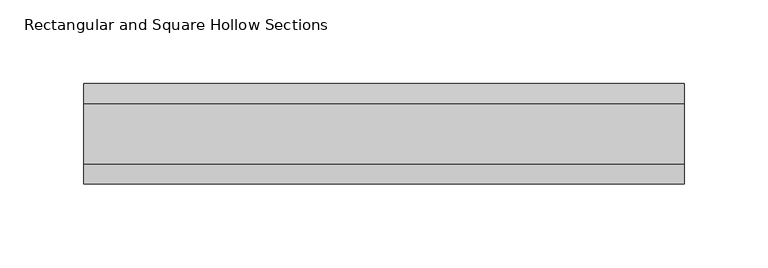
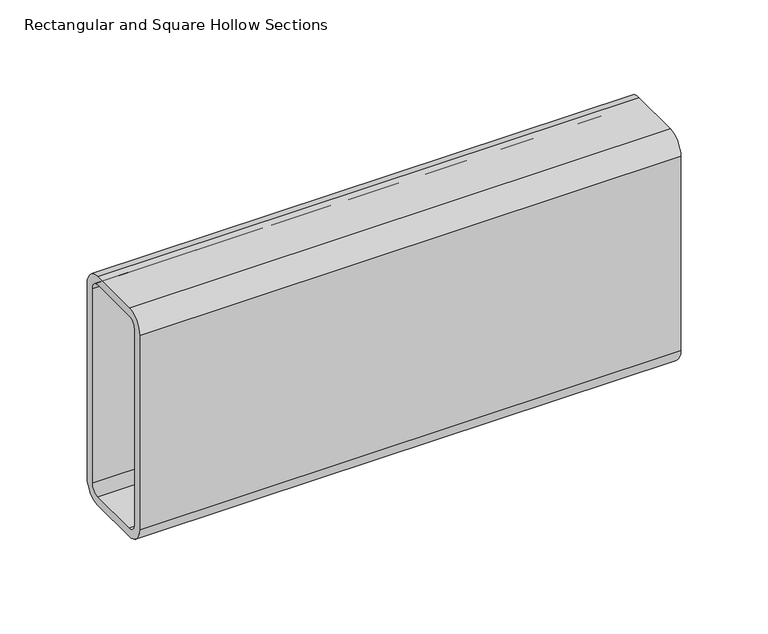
"""IFC4 building model written with IfcOpenShell, lengths in millimetres: beam geometry, Rectangular and Square Hollow Sections : TREC160x60x6."""

from ifc_helpers import new_model, si_unit, point, frame, frame_2d, origin, place, context, project, spatial, polyline, circle_curve, trimmed, segment, composite_curve, outline, extrude, source, transform, mapped, element, save


def rectangular_and_square_hollow_sections_02216e99(model_context):
    return source(origin(), model_context, "Body", "SweptSolid", [
        extrude(outline(composite_curve([segment(polyline([(30.0, 68.0), (30.0, -68.0)]), True, "CONTINUOUS"), segment(trimmed(circle_curve(frame_2d((18.0, -68.0)), 12.0), [point((30.0, -68.0))], [point((18.0, -80.0))], False, "CARTESIAN"), True, "CONTINUOUS"), segment(polyline([(18.0, -80.0), (-18.0, -80.0)]), True, "CONTINUOUS"), segment(trimmed(circle_curve(frame_2d((-18.0, -68.0)), 12.0), [point((-18.0, -80.0))], [point((-30.0, -68.0))], False, "CARTESIAN"), True, "CONTINUOUS"), segment(polyline([(-30.0, -68.0), (-30.0, 68.0)]), True, "CONTINUOUS"), segment(trimmed(circle_curve(frame_2d((-18.0, 68.0)), 12.0), [point((-30.0, 68.0))], [point((-18.0, 80.0))], False, "CARTESIAN"), True, "CONTINUOUS"), segment(polyline([(-18.0, 80.0), (18.0, 80.0)]), True, "CONTINUOUS"), segment(trimmed(circle_curve(frame_2d((18.0, 68.0)), 12.0), [point((18.0, 80.0))], [point((30.0, 68.0))], False, "CARTESIAN"), True, "CONTINUOUS")], self_intersect=False), holes=[composite_curve([segment(trimmed(circle_curve(frame_2d((-18.0, 68.0)), 6.0), [point((-18.0, 74.0))], [point((-24.0, 68.0))], True, "CARTESIAN"), True, "CONTINUOUS"), segment(polyline([(-24.0, 68.0), (-24.0, -68.0)]), True, "CONTINUOUS"), segment(trimmed(circle_curve(frame_2d((-18.0, -68.0)), 6.0), [point((-24.0, -68.0))], [point((-18.0, -74.0))], True, "CARTESIAN"), True, "CONTINUOUS"), segment(polyline([(-18.0, -74.0), (18.0, -74.0)]), True, "CONTINUOUS"), segment(trimmed(circle_curve(frame_2d((18.0, -68.0)), 6.0), [point((18.0, -74.0))], [point((24.0, -68.0))], True, "CARTESIAN"), True, "CONTINUOUS"), segment(polyline([(24.0, -68.0), (24.0, 68.0)]), True, "CONTINUOUS"), segment(trimmed(circle_curve(frame_2d((18.0, 68.0)), 6.0), [point((24.0, 68.0))], [point((18.0, 74.0))], True, "CARTESIAN"), True, "CONTINUOUS"), segment(polyline([(18.0, 74.0), (-18.0, 74.0)]), True, "CONTINUOUS")], self_intersect=False)]), frame((-157.0, 0.0, 0.0), z_axis=(1.0, 0.0, 0.0), x_axis=(0.0, 1.0, 0.0)), (0.0, 0.0, 1.0), 358.0),
    ])


if __name__ == "__main__":
    model = new_model("IFC4")
    model_context = context("Model", 3, world=origin())
    ifc_project = project(units=[si_unit("LENGTHUNIT", "METRE", prefix="MILLI")], contexts=[model_context])
    site = spatial("IfcSite", under=ifc_project)
    building = spatial("IfcBuilding", under=site)
    placement = place(None, origin())
    rectangular_and_square_hollow_sections_shape = rectangular_and_square_hollow_sections_02216e99(model_context)
    element("IfcBeam", 1, ObjectType="Rectangular and Square Hollow Sections : TREC160x60x6", at=placement, inside=building, context=model_context, shape_type="MappedRepresentation", body=[
        mapped(rectangular_and_square_hollow_sections_shape, transform((0.0, 0.0, 0.0), x_axis=(1.0, 0.0, 0.0), y_axis=(0.0, 1.0, 0.0), z_axis=(0.0, 0.0, 1.0))),
    ])
    save(model, "model.ifc")
